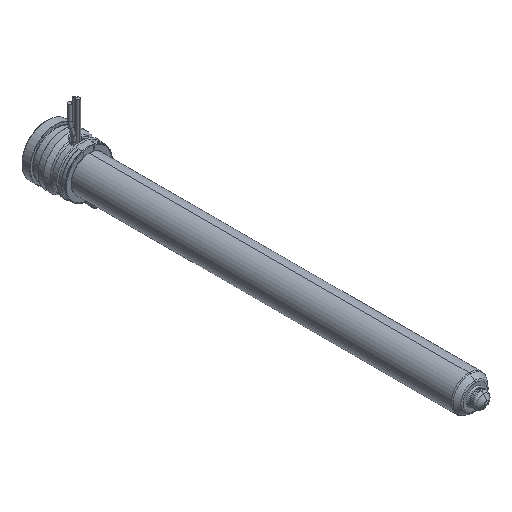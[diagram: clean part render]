
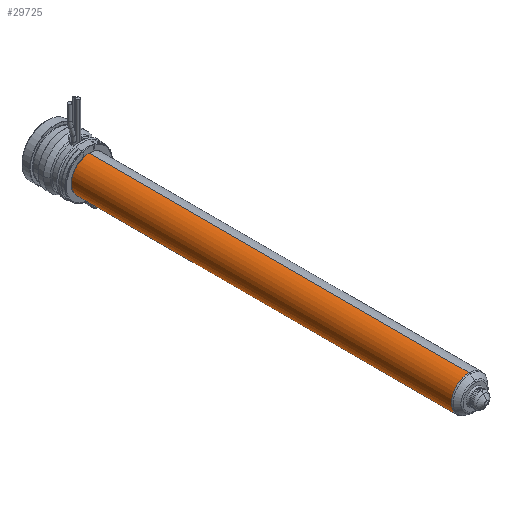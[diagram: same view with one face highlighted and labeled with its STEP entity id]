
A CAD part, isometric view. The second image highlights one B-rep face of the part: STEP entity #29725.
In plain terms, the highlighted cylindrical face has radius 9 mm (diameter 18 mm), a partial arc.
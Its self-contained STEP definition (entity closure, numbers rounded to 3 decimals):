
#29180=CARTESIAN_POINT('',(0.,-215.836,0.));
#29181=DIRECTION('',(0.,-1.,0.));
#29182=DIRECTION('',(0.,0.,1.));
#29183=AXIS2_PLACEMENT_3D('',#29180,#29181,#29182);
#29188=CARTESIAN_POINT('',(0.,-22.,0.));
#29189=DIRECTION('',(0.,-1.,0.));
#29190=DIRECTION('',(0.,0.,1.));
#29191=AXIS2_PLACEMENT_3D('',#29188,#29189,#29190);
#29196=DIRECTION('',(0.,-1.,0.));
#29197=VECTOR('',#29196,193.836);
#29198=CARTESIAN_POINT('',(0.,-22.,9.));
#29199=LINE('',#29198,#29197);
#29211=DIRECTION('',(0.,-1.,0.));
#29212=VECTOR('',#29211,193.836);
#29213=CARTESIAN_POINT('',(0.,-22.,-9.));
#29214=LINE('',#29213,#29212);
#29406=CARTESIAN_POINT('',(0.,-22.,9.));
#29407=CARTESIAN_POINT('',(0.,-215.836,9.));
#29408=VERTEX_POINT('',#29406);
#29409=VERTEX_POINT('',#29407);
#29428=CARTESIAN_POINT('',(0.,-22.,-9.));
#29429=CARTESIAN_POINT('',(0.,-215.836,-9.));
#29430=VERTEX_POINT('',#29428);
#29431=VERTEX_POINT('',#29429);
#29711=CARTESIAN_POINT('',(0.,-7.625,0.));
#29712=DIRECTION('',(0.,-1.,0.));
#29713=DIRECTION('',(0.,0.,1.));
#29714=AXIS2_PLACEMENT_3D('',#29711,#29712,#29713);
#29715=CYLINDRICAL_SURFACE('',#29714,9.);
#29717=ORIENTED_EDGE('',*,*,#29716,.T.);
#29718=ORIENTED_EDGE('',*,*,#29706,.T.);
#29720=ORIENTED_EDGE('',*,*,#29719,.F.);
#29722=ORIENTED_EDGE('',*,*,#29721,.F.);
#29723=EDGE_LOOP('',(#29717,#29718,#29720,#29722));
#29724=FACE_OUTER_BOUND('',#29723,.F.);
#29725=ADVANCED_FACE('',(#29724),#29715,.T.);
#29184=CIRCLE('',#29183,9.);
#29192=CIRCLE('',#29191,9.);
#29706=EDGE_CURVE('',#29409,#29431,#29184,.T.);
#29716=EDGE_CURVE('',#29408,#29409,#29199,.T.);
#29719=EDGE_CURVE('',#29430,#29431,#29214,.T.);
#29721=EDGE_CURVE('',#29408,#29430,#29192,.T.);
